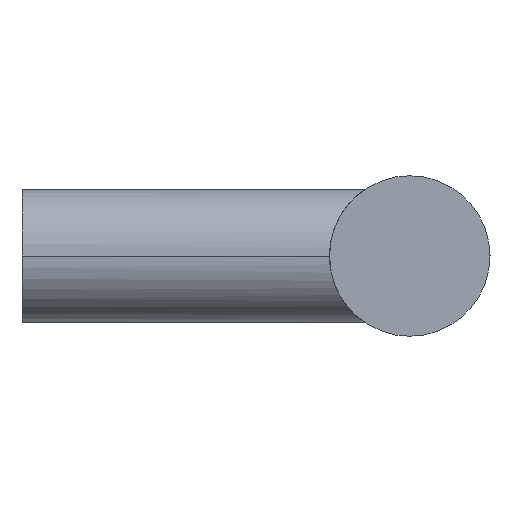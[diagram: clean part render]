
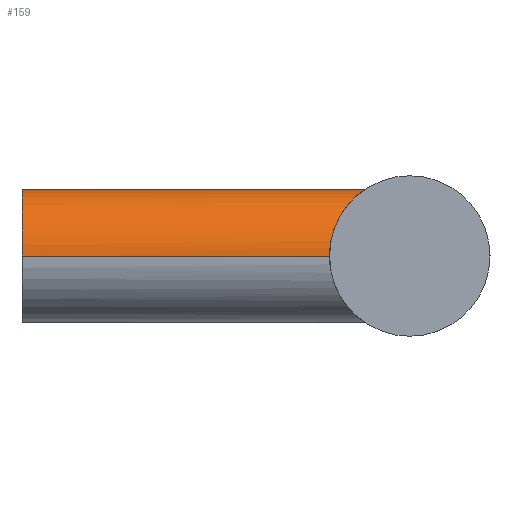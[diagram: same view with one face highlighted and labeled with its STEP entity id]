
A CAD part, left-side view. The second image highlights one B-rep face of the part: STEP entity #159.
In plain terms, the highlighted cylindrical face has radius 5 mm (diameter 10 mm), a partial arc.
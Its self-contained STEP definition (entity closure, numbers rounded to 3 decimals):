
#107 = EDGE_CURVE( '', #211, #225, #267, .T. );
#139 = EDGE_CURVE( '', #183, #211, #302, .T. );
#145 = EDGE_CURVE( '', #213, #183, #310, .T. );
#159 = ADVANCED_FACE( '', ( #327 ), #328, .T. );
#183 = VERTEX_POINT( '', #354 );
#185 = VERTEX_POINT( '', #356 );
#191 = EDGE_CURVE( '', #185, #213, #362, .T. );
#195 = EDGE_CURVE( '', #225, #185, #366, .T. );
#211 = VERTEX_POINT( '', #386 );
#213 = VERTEX_POINT( '', #388 );
#225 = VERTEX_POINT( '', #403 );
#267 = CIRCLE( '', #472, 5. );
#302 = LINE( '', #534, #535 );
#310 = B_SPLINE_CURVE_WITH_KNOTS( '', 3, ( #544, #545, #546, #547, #548, #549, #550, #551, #552, #553, #554, #555, #556, #557, #558, #559, #560, #561 ), .UNSPECIFIED., .F., .F., ( 4, 2, 2, 2, 2, 2, 2, 2, 4 ), ( 0., 1.041, 2.083, 3.124, 4.165, 5.164, 6.163, 7.162, 8.161 ), .UNSPECIFIED. );
#327 = FACE_OUTER_BOUND( '', #583, .T. );
#328 = CYLINDRICAL_SURFACE( '', #584, 5. );
#354 = CARTESIAN_POINT( '', ( -5., -23., 0. ) );
#356 = CARTESIAN_POINT( '', ( 5., -23., 0. ) );
#362 = B_SPLINE_CURVE_WITH_KNOTS( '', 3, ( #662, #663, #664, #665, #666, #667, #668, #669, #670, #671, #672, #673, #674, #675, #676, #677, #678, #679 ), .UNSPECIFIED., .F., .F., ( 4, 2, 2, 2, 2, 2, 2, 2, 4 ), ( 24.483, 25.482, 26.481, 27.479, 28.478, 29.52, 30.561, 31.602, 32.643 ), .UNSPECIFIED. );
#366 = LINE( '', #684, #685 );
#386 = CARTESIAN_POINT( '', ( -5., 0., 0. ) );
#388 = CARTESIAN_POINT( '', ( 0., -25.683, 5. ) );
#403 = CARTESIAN_POINT( '', ( 5., 0., 0. ) );
#472 = AXIS2_PLACEMENT_3D( '', #777, #778, #779 );
#534 = CARTESIAN_POINT( '', ( -5., 0., 0. ) );
#535 = VECTOR( '', #821, 1. );
#544 = CARTESIAN_POINT( '', ( 0., -25.683, 5. ) );
#545 = CARTESIAN_POINT( '', ( -0.347, -25.683, 5. ) );
#546 = CARTESIAN_POINT( '', ( -0.687, -25.627, 4.964 ) );
#547 = CARTESIAN_POINT( '', ( -1.343, -25.436, 4.828 ) );
#548 = CARTESIAN_POINT( '', ( -1.659, -25.301, 4.728 ) );
#549 = CARTESIAN_POINT( '', ( -2.259, -24.995, 4.472 ) );
#550 = CARTESIAN_POINT( '', ( -2.544, -24.825, 4.316 ) );
#551 = CARTESIAN_POINT( '', ( -3.073, -24.483, 3.957 ) );
#552 = CARTESIAN_POINT( '', ( -3.317, -24.311, 3.754 ) );
#553 = CARTESIAN_POINT( '', ( -3.745, -24., 3.326 ) );
#554 = CARTESIAN_POINT( '', ( -3.946, -23.847, 3.088 ) );
#555 = CARTESIAN_POINT( '', ( -4.306, -23.566, 2.561 ) );
#556 = CARTESIAN_POINT( '', ( -4.467, -23.437, 2.272 ) );
#557 = CARTESIAN_POINT( '', ( -4.728, -23.225, 1.659 ) );
#558 = CARTESIAN_POINT( '', ( -4.83, -23.141, 1.335 ) );
#559 = CARTESIAN_POINT( '', ( -4.966, -23.028, 0.672 ) );
#560 = CARTESIAN_POINT( '', ( -5., -23., 0.333 ) );
#561 = CARTESIAN_POINT( '', ( -5., -23., 0. ) );
#583 = EDGE_LOOP( '', ( #859, #860, #861, #862, #863 ) );
#584 = AXIS2_PLACEMENT_3D( '', #864, #865, #866 );
#662 = CARTESIAN_POINT( '', ( 5., -23., 0. ) );
#663 = CARTESIAN_POINT( '', ( 5., -23., 0.333 ) );
#664 = CARTESIAN_POINT( '', ( 4.966, -23.028, 0.672 ) );
#665 = CARTESIAN_POINT( '', ( 4.83, -23.141, 1.335 ) );
#666 = CARTESIAN_POINT( '', ( 4.728, -23.225, 1.659 ) );
#667 = CARTESIAN_POINT( '', ( 4.467, -23.437, 2.272 ) );
#668 = CARTESIAN_POINT( '', ( 4.306, -23.566, 2.561 ) );
#669 = CARTESIAN_POINT( '', ( 3.946, -23.847, 3.088 ) );
#670 = CARTESIAN_POINT( '', ( 3.745, -24., 3.326 ) );
#671 = CARTESIAN_POINT( '', ( 3.317, -24.311, 3.754 ) );
#672 = CARTESIAN_POINT( '', ( 3.073, -24.483, 3.957 ) );
#673 = CARTESIAN_POINT( '', ( 2.544, -24.825, 4.316 ) );
#674 = CARTESIAN_POINT( '', ( 2.259, -24.995, 4.472 ) );
#675 = CARTESIAN_POINT( '', ( 1.659, -25.301, 4.728 ) );
#676 = CARTESIAN_POINT( '', ( 1.343, -25.436, 4.828 ) );
#677 = CARTESIAN_POINT( '', ( 0.687, -25.627, 4.964 ) );
#678 = CARTESIAN_POINT( '', ( 0.347, -25.683, 5. ) );
#679 = CARTESIAN_POINT( '', ( 0., -25.683, 5. ) );
#684 = CARTESIAN_POINT( '', ( 5., 0., 0. ) );
#685 = VECTOR( '', #893, 1. );
#777 = CARTESIAN_POINT( '', ( 0., 0., 0. ) );
#778 = DIRECTION( '', ( 0., 1., 0. ) );
#779 = DIRECTION( '', ( 1., 0., 0. ) );
#821 = DIRECTION( '', ( 0., 1., 0. ) );
#859 = ORIENTED_EDGE( '', *, *, #195, .F. );
#860 = ORIENTED_EDGE( '', *, *, #107, .F. );
#861 = ORIENTED_EDGE( '', *, *, #139, .F. );
#862 = ORIENTED_EDGE( '', *, *, #145, .F. );
#863 = ORIENTED_EDGE( '', *, *, #191, .F. );
#864 = CARTESIAN_POINT( '', ( 0., 0., 0. ) );
#865 = DIRECTION( '', ( 0., 1., 0. ) );
#866 = DIRECTION( '', ( 1., 0., 0. ) );
#893 = DIRECTION( '', ( 0., -1., 0. ) );
